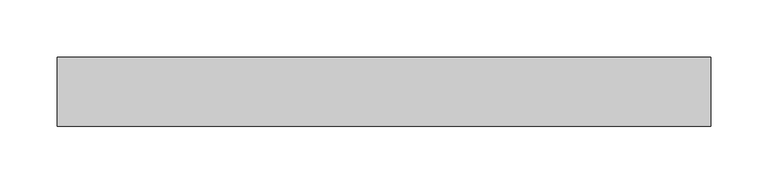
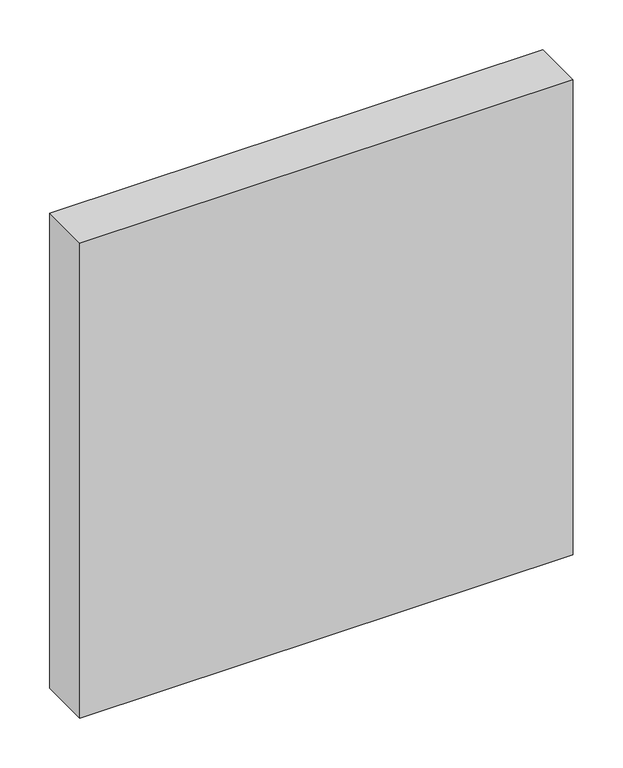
"""IFC4 building model written with IfcOpenShell, lengths in millimetres: plate geometry, Системная панель : Алюкобонд красный."""

from ifc_helpers import new_model, si_unit, origin, origin_with_axes, place, context, project, spatial, polyline, outline, extrude, source, transform, mapped, element, save


def plate_6e14b51c(model_context):
    return source(origin(), model_context, "Body", "SweptSolid", [
        extrude(outline(polyline([(285.0, -10.5), (-285.0, -10.5), (-285.0, 49.5), (285.0, 49.5), (285.0, -10.5)])), origin_with_axes(), (0.0, 0.0, 1.0), 580.0),
    ])


if __name__ == "__main__":
    model = new_model("IFC4")
    model_context = context("Model", 3, world=origin())
    ifc_project = project(units=[si_unit("LENGTHUNIT", "METRE", prefix="MILLI")], contexts=[model_context])
    site = spatial("IfcSite", under=ifc_project)
    building = spatial("IfcBuilding", under=site)
    placement = place(None, origin())
    plate_shape = plate_6e14b51c(model_context)
    element("IfcPlate", 1, ObjectType="Системная панель : Алюкобонд красный", at=placement, inside=building, context=model_context, shape_type="MappedRepresentation", body=[
        mapped(plate_shape, transform((0.0, 0.0, 0.0), x_axis=(1.0, 0.0, 0.0), y_axis=(0.0, 1.0, 0.0), z_axis=(0.0, 0.0, 1.0))),
    ])
    save(model, "model.ifc")
